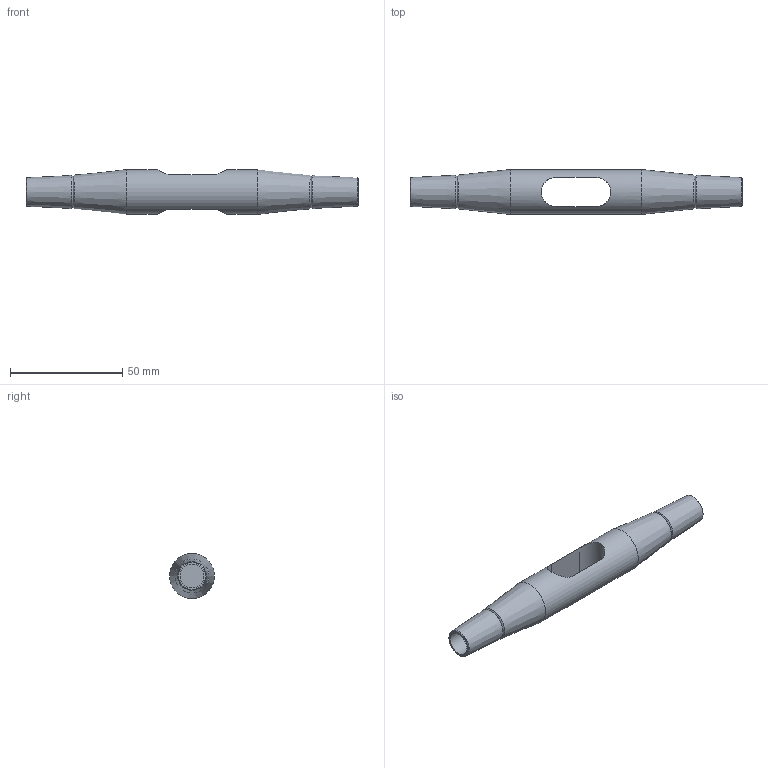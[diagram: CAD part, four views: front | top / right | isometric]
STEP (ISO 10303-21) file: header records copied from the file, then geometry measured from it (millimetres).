
FILE_DESCRIPTION(/* description */ (''),/* implementation_level */ '2;1');
FILE_NAME(/* name */ 'G:\Engineering\700 CAD\Internet-PX-1-step-igs-dxf\520-KMF-Arbeitsdateien\520-010-KMF.stp',/* time_stamp */ '2020-07-02T13:17:20+02:00',/* author */ ('schwarz'),/* organization */ (''),/* preprocessor_version */ 'ST-DEVELOPER v16.1',/* originating_system */ 'Autodesk Inventor 2016',/* authorisation */ '');
FILE_SCHEMA (('AUTOMOTIVE_DESIGN { 1 0 10303 214 3 1 1 }'));
Length unit declared in the file: centimetre
Products named in the file (1): Kreuzmuffen-Set 520 010 Kunde
Bounding box: 148 x 20 x 20 mm (x, y, z)
Volume: 26633.6 mm3; surface area: 9950.6 mm2
Topology: 1 solids, 1 shells, 21 faces, 43 edges, 26 vertices
Faces by surface type: cone 10, plane 6, cylinder 5
Full cylindrical faces by diameter (mm): 10.5 x2, 20 x1
Entity records: 589 total; most frequent: CARTESIAN_POINT 142, DIRECTION 84, ORIENTED_EDGE 56, EDGE_LOOP 38, AXIS2_PLACEMENT_3D 38, EDGE_CURVE 28, VERTEX_POINT 24, STYLED_ITEM 22
